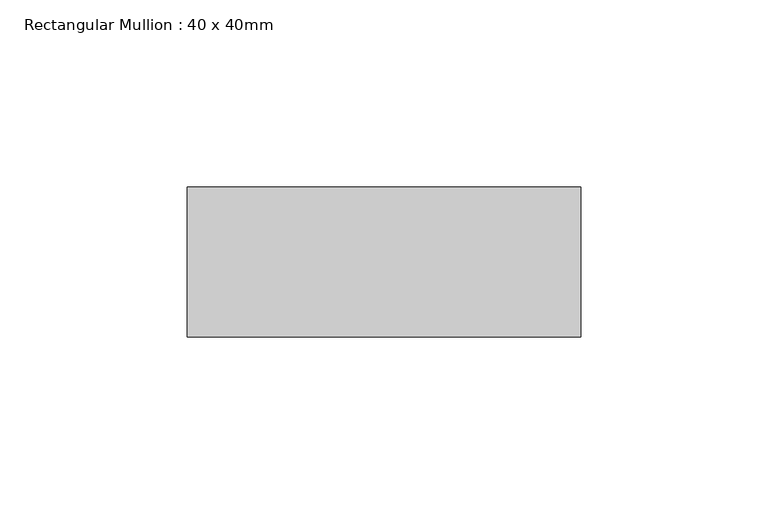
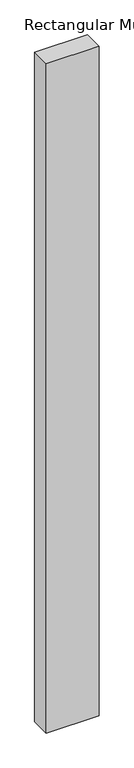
"""IFC4 building model written with IfcOpenShell, lengths in millimetres: member geometry, Rectangular Mullion : 40 x 40mm."""

from ifc_helpers import new_model, si_unit, frame, origin, place, context, project, spatial, polyline, outline, extrude, source, transform, mapped, element, save


def rectangular_mullion_40_x_40mm_8bc2345d(model_context):
    return source(origin(), model_context, "Body", "SweptSolid", [
        extrude(outline(polyline([(80.0, -20.0), (80.0, -60.0), (-25.0, -60.0), (-25.0, -20.0), (80.0, -20.0)])), frame((0.0, 0.0, -1410.0), z_axis=(0.0, 0.0, 1.0), x_axis=(1.0, 0.0, 0.0)), (0.0, 0.0, 1.0), 1410.0),
    ])


if __name__ == "__main__":
    model = new_model("IFC4")
    model_context = context("Model", 3, world=origin())
    ifc_project = project(units=[si_unit("LENGTHUNIT", "METRE", prefix="MILLI")], contexts=[model_context])
    site = spatial("IfcSite", under=ifc_project)
    building = spatial("IfcBuilding", under=site)
    placement = place(None, origin())
    rectangular_mullion_40_x_40mm_shape = rectangular_mullion_40_x_40mm_8bc2345d(model_context)
    element("IfcMember", 1, ObjectType="Rectangular Mullion : 40 x 40mm", at=placement, inside=building, context=model_context, shape_type="MappedRepresentation", body=[
        mapped(rectangular_mullion_40_x_40mm_shape, transform((0.0, 0.0, 0.0), x_axis=(1.0, 0.0, 0.0), y_axis=(0.0, 1.0, 0.0), z_axis=(0.0, 0.0, 1.0))),
    ])
    save(model, "model.ifc")
